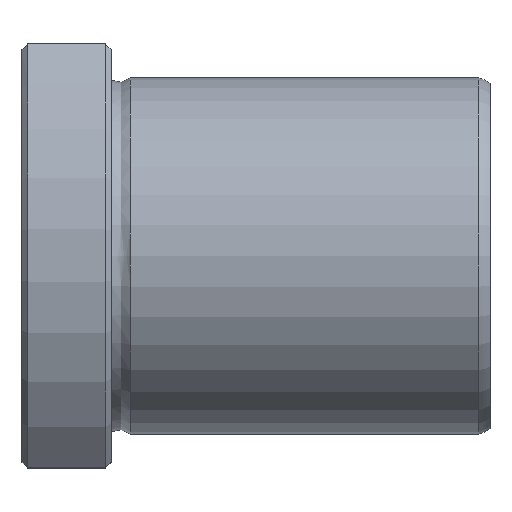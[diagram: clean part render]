
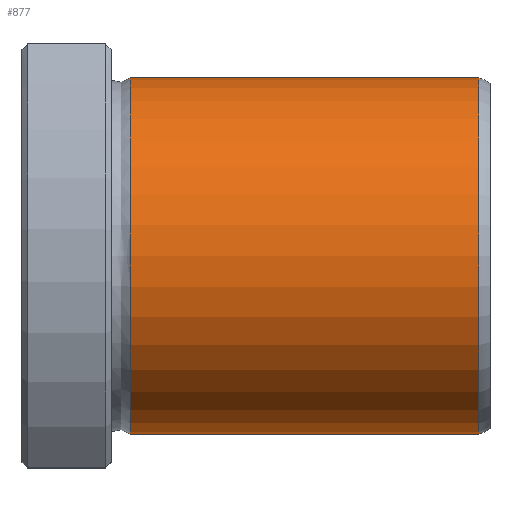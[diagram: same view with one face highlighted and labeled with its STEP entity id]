
A CAD part, top view. The second image highlights one B-rep face of the part: STEP entity #877.
In plain terms, the highlighted cylindrical face has radius 16 mm (diameter 32 mm), a full revolution.
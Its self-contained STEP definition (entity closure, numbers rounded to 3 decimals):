
#843=CARTESIAN_POINT('',(40.999,0.0,16.));
#844=VERTEX_POINT('',#843);
#845=CARTESIAN_POINT('',(40.999,0.0,0.0));
#846=DIRECTION('',(-1.0,0.0,0.0));
#847=DIRECTION('',(0.0,0.0,1.0));
#848=AXIS2_PLACEMENT_3D('',#845,#846,#847);
#849=CIRCLE('',#848,16.);
#850=EDGE_CURVE('',#844,#844,#849,.T.);
#858=CARTESIAN_POINT('',(25.359,0.0,0.0));
#859=DIRECTION('',(-1.0,0.0,0.0));
#860=DIRECTION('',(0.0,0.0,1.0));
#861=AXIS2_PLACEMENT_3D('',#858,#859,#860);
#862=CYLINDRICAL_SURFACE('',#861,16.);
#863=CARTESIAN_POINT('',(9.72,0.0,16.));
#864=VERTEX_POINT('',#863);
#865=CARTESIAN_POINT('',(9.72,0.0,0.0));
#866=DIRECTION('',(-1.0,0.0,0.0));
#867=DIRECTION('',(0.0,0.0,1.0));
#868=AXIS2_PLACEMENT_3D('',#865,#866,#867);
#869=CIRCLE('',#868,16.);
#870=EDGE_CURVE('',#864,#864,#869,.T.);
#871=ORIENTED_EDGE('',*,*,#870,.F.);
#872=EDGE_LOOP('',(#871));
#873=FACE_OUTER_BOUND('',#872,.T.);
#874=ORIENTED_EDGE('',*,*,#850,.T.);
#875=EDGE_LOOP('',(#874));
#876=FACE_BOUND('',#875,.T.);
#877=ADVANCED_FACE('',(#873,#876),#862,.T.);
